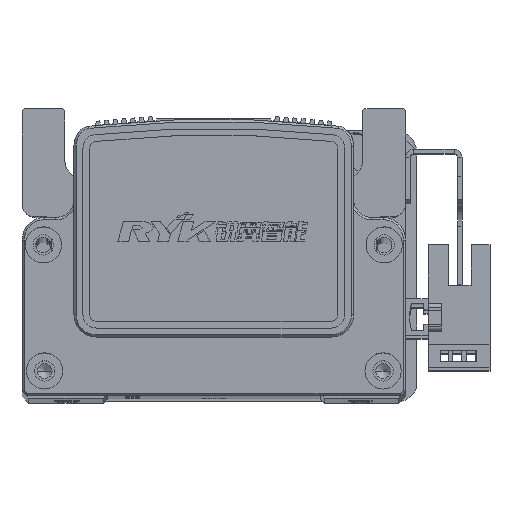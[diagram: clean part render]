
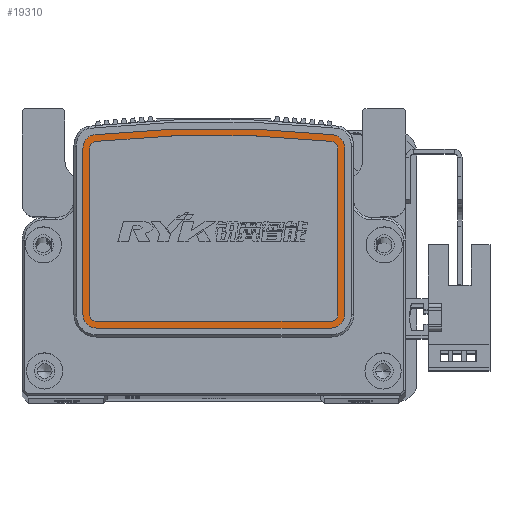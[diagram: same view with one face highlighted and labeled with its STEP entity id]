
A CAD part, top view. The second image highlights one B-rep face of the part: STEP entity #19310.
In plain terms, the highlighted planar face has unit normal (0, 0, 1) as drawn and (1, 0, 0) by its records, which use the part's own axes.
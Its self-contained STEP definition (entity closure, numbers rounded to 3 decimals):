
#6415 = CARTESIAN_POINT ( 'NONE',  ( 9., 19.871, 26. ) ) ;
#6416 = DIRECTION ( 'NONE',  ( 0., 0., 1. ) ) ;
#6417 = DIRECTION ( 'NONE',  ( 1., 0., 0. ) ) ;
#10066 = CIRCLE ( 'NONE', #13169, 1.5 ) ;
#11214 = LINE ( 'NONE', #16642, #11215 ) ;
#11215 = VECTOR ( 'NONE', #16625, 1000. ) ;
#11245 = CIRCLE ( 'NONE', #34772, 244.813 ) ;
#11263 = VECTOR ( 'NONE', #16758, 1000. ) ;
#11304 = CIRCLE ( 'NONE', #34760, 1.5 ) ;
#11312 = LINE ( 'NONE', #16796, #11263 ) ;
#11313 = CIRCLE ( 'NONE', #34774, 1.5 ) ;
#11316 = CIRCLE ( 'NONE', #34754, 1.5 ) ;
#11363 = LINE ( 'NONE', #16929, #11376 ) ;
#11376 = VECTOR ( 'NONE', #16941, 1000. ) ;
#11446 = CIRCLE ( 'NONE', #34806, 3. ) ;
#11448 = CIRCLE ( 'NONE', #34837, 3. ) ;
#11460 = VECTOR ( 'NONE', #17475, 1000. ) ;
#11470 = LINE ( 'NONE', #17457, #11502 ) ;
#11480 = LINE ( 'NONE', #17506, #11460 ) ;
#11502 = VECTOR ( 'NONE', #17477, 1000. ) ;
#11505 = CIRCLE ( 'NONE', #34824, 3. ) ;
#11554 = CIRCLE ( 'NONE', #34809, 3. ) ;
#11646 = CIRCLE ( 'NONE', #34857, 246.313 ) ;
#11648 = VECTOR ( 'NONE', #17919, 1000. ) ;
#11676 = LINE ( 'NONE', #17903, #11648 ) ;
#13169 = AXIS2_PLACEMENT_3D ( 'NONE', #6415, #6417, #6416 ) ;
#15842 = PLANE ( 'NONE',  #20071 ) ;
#15849 = DIRECTION ( 'NONE',  ( 0., 0., -1. ) ) ;
#15863 = CARTESIAN_POINT ( 'NONE',  ( 9., 19.871, 26. ) ) ;
#15864 = DIRECTION ( 'NONE',  ( 1., 0., 0. ) ) ;
#16312 = DIRECTION ( 'NONE',  ( 0., 0., -1. ) ) ;
#16316 = CARTESIAN_POINT ( 'NONE',  ( 9., -222.049, 0. ) ) ;
#16326 = DIRECTION ( 'NONE',  ( 1., 0., 0. ) ) ;
#16605 = DIRECTION ( 'NONE',  ( 0., 0., 1. ) ) ;
#16625 = DIRECTION ( 'NONE',  ( 0., -1., 0. ) ) ;
#16628 = CARTESIAN_POINT ( 'NONE',  ( 9., -222.049, 0. ) ) ;
#16642 = CARTESIAN_POINT ( 'NONE',  ( 9., 19.871, 27.5 ) ) ;
#16645 = DIRECTION ( 'NONE',  ( 1., 0., 0. ) ) ;
#16663 = DIRECTION ( 'NONE',  ( 0., 0., 1. ) ) ;
#16702 = CARTESIAN_POINT ( 'NONE',  ( 9., 19.871, -26. ) ) ;
#16714 = DIRECTION ( 'NONE',  ( 1., 0., 0. ) ) ;
#16719 = DIRECTION ( 'NONE',  ( 1., 0., 0. ) ) ;
#16729 = CARTESIAN_POINT ( 'NONE',  ( 9., -17., -26. ) ) ;
#16737 = DIRECTION ( 'NONE',  ( 0., 0., 1. ) ) ;
#16750 = DIRECTION ( 'NONE',  ( 1., 0., 0. ) ) ;
#16758 = DIRECTION ( 'NONE',  ( 0., 0., -1. ) ) ;
#16796 = CARTESIAN_POINT ( 'NONE',  ( 9., -18.5, 26. ) ) ;
#16803 = CARTESIAN_POINT ( 'NONE',  ( 9., -17., 26. ) ) ;
#16811 = DIRECTION ( 'NONE',  ( 0., 0., 1. ) ) ;
#16929 = CARTESIAN_POINT ( 'NONE',  ( 9., 19.871, -27.5 ) ) ;
#16941 = DIRECTION ( 'NONE',  ( 0., 1., 0. ) ) ;
#17457 = CARTESIAN_POINT ( 'NONE',  ( 9., -20., 26. ) ) ;
#17475 = DIRECTION ( 'NONE',  ( 0., -1., 0. ) ) ;
#17477 = DIRECTION ( 'NONE',  ( 0., 0., -1. ) ) ;
#17506 = CARTESIAN_POINT ( 'NONE',  ( 9., 19.871, 29. ) ) ;
#17523 = DIRECTION ( 'NONE',  ( 1., 0., 0. ) ) ;
#17531 = DIRECTION ( 'NONE',  ( 0., 0., -1. ) ) ;
#17553 = CARTESIAN_POINT ( 'NONE',  ( 9., 19.871, -26. ) ) ;
#17557 = DIRECTION ( 'NONE',  ( 1., 0., 0. ) ) ;
#17566 = DIRECTION ( 'NONE',  ( 0., 0., -1. ) ) ;
#17578 = CARTESIAN_POINT ( 'NONE',  ( 9., -17., 26. ) ) ;
#17590 = DIRECTION ( 'NONE',  ( 1., 0., 0. ) ) ;
#17595 = DIRECTION ( 'NONE',  ( 0., 0., -1. ) ) ;
#17599 = CARTESIAN_POINT ( 'NONE',  ( 9., -17., -26. ) ) ;
#17622 = CARTESIAN_POINT ( 'NONE',  ( 9., 19.871, 26. ) ) ;
#17626 = DIRECTION ( 'NONE',  ( 0., 0., 1. ) ) ;
#17643 = DIRECTION ( 'NONE',  ( 1., 0., 0. ) ) ;
#17903 = CARTESIAN_POINT ( 'NONE',  ( 9., -17., -29. ) ) ;
#17919 = DIRECTION ( 'NONE',  ( 0., 1., 0. ) ) ;
#19310 = ADVANCED_FACE ( 'NONE', ( #24493, #24502 ), #15842, .T. ) ;
#20071 = AXIS2_PLACEMENT_3D ( 'NONE', #15863, #15864, #15849 ) ;
#21716 = EDGE_CURVE ( 'NONE', #59217, #59203, #10066, .T. ) ;
#24493 = FACE_BOUND ( 'NONE', #58417, .T. ) ;
#24502 = FACE_OUTER_BOUND ( 'NONE', #58421, .T. ) ;
#34754 = AXIS2_PLACEMENT_3D ( 'NONE', #16803, #16750, #16811 ) ;
#34760 = AXIS2_PLACEMENT_3D ( 'NONE', #16702, #16714, #16663 ) ;
#34772 = AXIS2_PLACEMENT_3D ( 'NONE', #16628, #16645, #16605 ) ;
#34774 = AXIS2_PLACEMENT_3D ( 'NONE', #16729, #16719, #16737 ) ;
#34806 = AXIS2_PLACEMENT_3D ( 'NONE', #17578, #17523, #17595 ) ;
#34809 = AXIS2_PLACEMENT_3D ( 'NONE', #17622, #17643, #17626 ) ;
#34824 = AXIS2_PLACEMENT_3D ( 'NONE', #17599, #17590, #17531 ) ;
#34837 = AXIS2_PLACEMENT_3D ( 'NONE', #17553, #17557, #17566 ) ;
#34857 = AXIS2_PLACEMENT_3D ( 'NONE', #16316, #16326, #16312 ) ;
#53435 = CARTESIAN_POINT ( 'NONE',  ( 9., 21.363, 26.16 ) ) ;
#53471 = CARTESIAN_POINT ( 'NONE',  ( 9., 19.871, 27.5 ) ) ;
#53483 = CARTESIAN_POINT ( 'NONE',  ( 9., -18.5, 26. ) ) ;
#53489 = CARTESIAN_POINT ( 'NONE',  ( 9., 19.871, -27.5 ) ) ;
#53492 = CARTESIAN_POINT ( 'NONE',  ( 9., -18.5, -26. ) ) ;
#53513 = CARTESIAN_POINT ( 'NONE',  ( 9., 22.854, -26.321 ) ) ;
#53517 = CARTESIAN_POINT ( 'NONE',  ( 9., -17., -27.5 ) ) ;
#53519 = CARTESIAN_POINT ( 'NONE',  ( 9., -17., 27.5 ) ) ;
#53531 = CARTESIAN_POINT ( 'NONE',  ( 9., -17., -29. ) ) ;
#53548 = CARTESIAN_POINT ( 'NONE',  ( 9., 19.871, 29. ) ) ;
#53558 = CARTESIAN_POINT ( 'NONE',  ( 9., 19.871, -29. ) ) ;
#53573 = CARTESIAN_POINT ( 'NONE',  ( 9., -20., 26. ) ) ;
#53587 = CARTESIAN_POINT ( 'NONE',  ( 9., 21.363, -26.16 ) ) ;
#53601 = CARTESIAN_POINT ( 'NONE',  ( 9., 22.854, 26.321 ) ) ;
#53636 = CARTESIAN_POINT ( 'NONE',  ( 9., -20., -26. ) ) ;
#53640 = CARTESIAN_POINT ( 'NONE',  ( 9., -17., 29. ) ) ;
#55220 = ORIENTED_EDGE ( 'NONE', *, *, #62638, .F. ) ;
#55222 = ORIENTED_EDGE ( 'NONE', *, *, #62654, .F. ) ;
#55240 = ORIENTED_EDGE ( 'NONE', *, *, #62659, .F. ) ;
#55255 = ORIENTED_EDGE ( 'NONE', *, *, #62783, .T. ) ;
#55256 = ORIENTED_EDGE ( 'NONE', *, *, #62774, .T. ) ;
#55276 = ORIENTED_EDGE ( 'NONE', *, *, #62623, .F. ) ;
#55280 = ORIENTED_EDGE ( 'NONE', *, *, #62786, .T. ) ;
#55290 = ORIENTED_EDGE ( 'NONE', *, *, #62635, .F. ) ;
#55291 = ORIENTED_EDGE ( 'NONE', *, *, #62803, .T. ) ;
#55298 = ORIENTED_EDGE ( 'NONE', *, *, #62867, .T. ) ;
#55301 = ORIENTED_EDGE ( 'NONE', *, *, #62682, .F. ) ;
#55314 = ORIENTED_EDGE ( 'NONE', *, *, #21716, .F. ) ;
#55321 = ORIENTED_EDGE ( 'NONE', *, *, #62766, .T. ) ;
#55322 = ORIENTED_EDGE ( 'NONE', *, *, #62624, .F. ) ;
#55331 = ORIENTED_EDGE ( 'NONE', *, *, #62868, .T. ) ;
#55333 = ORIENTED_EDGE ( 'NONE', *, *, #62781, .T. ) ;
#58417 = EDGE_LOOP ( 'NONE', ( #55322, #55290, #55301, #55220, #55240, #55222, #55276, #55314 ) ) ;
#58421 = EDGE_LOOP ( 'NONE', ( #55291, #55321, #55255, #55256, #55333, #55298, #55280, #55331 ) ) ;
#59203 = VERTEX_POINT ( 'NONE', #53471 ) ;
#59217 = VERTEX_POINT ( 'NONE', #53435 ) ;
#59231 = VERTEX_POINT ( 'NONE', #53483 ) ;
#59251 = VERTEX_POINT ( 'NONE', #53513 ) ;
#59256 = VERTEX_POINT ( 'NONE', #53517 ) ;
#59257 = VERTEX_POINT ( 'NONE', #53492 ) ;
#59259 = VERTEX_POINT ( 'NONE', #53489 ) ;
#59271 = VERTEX_POINT ( 'NONE', #53531 ) ;
#59274 = VERTEX_POINT ( 'NONE', #53519 ) ;
#59296 = VERTEX_POINT ( 'NONE', #53587 ) ;
#59313 = VERTEX_POINT ( 'NONE', #53601 ) ;
#59320 = VERTEX_POINT ( 'NONE', #53558 ) ;
#59322 = VERTEX_POINT ( 'NONE', #53548 ) ;
#59328 = VERTEX_POINT ( 'NONE', #53573 ) ;
#59354 = VERTEX_POINT ( 'NONE', #53636 ) ;
#59365 = VERTEX_POINT ( 'NONE', #53640 ) ;
#62623 = EDGE_CURVE ( 'NONE', #59203, #59274, #11214, .T. ) ;
#62624 = EDGE_CURVE ( 'NONE', #59296, #59217, #11245, .T. ) ;
#62635 = EDGE_CURVE ( 'NONE', #59259, #59296, #11304, .T. ) ;
#62638 = EDGE_CURVE ( 'NONE', #59257, #59256, #11313, .T. ) ;
#62654 = EDGE_CURVE ( 'NONE', #59274, #59231, #11316, .T. ) ;
#62659 = EDGE_CURVE ( 'NONE', #59231, #59257, #11312, .T. ) ;
#62682 = EDGE_CURVE ( 'NONE', #59256, #59259, #11363, .T. ) ;
#62766 = EDGE_CURVE ( 'NONE', #59322, #59365, #11480, .T. ) ;
#62774 = EDGE_CURVE ( 'NONE', #59328, #59354, #11470, .T. ) ;
#62781 = EDGE_CURVE ( 'NONE', #59354, #59271, #11505, .T. ) ;
#62783 = EDGE_CURVE ( 'NONE', #59365, #59328, #11446, .T. ) ;
#62786 = EDGE_CURVE ( 'NONE', #59320, #59251, #11448, .T. ) ;
#62803 = EDGE_CURVE ( 'NONE', #59313, #59322, #11554, .T. ) ;
#62867 = EDGE_CURVE ( 'NONE', #59271, #59320, #11676, .T. ) ;
#62868 = EDGE_CURVE ( 'NONE', #59251, #59313, #11646, .T. ) ;
